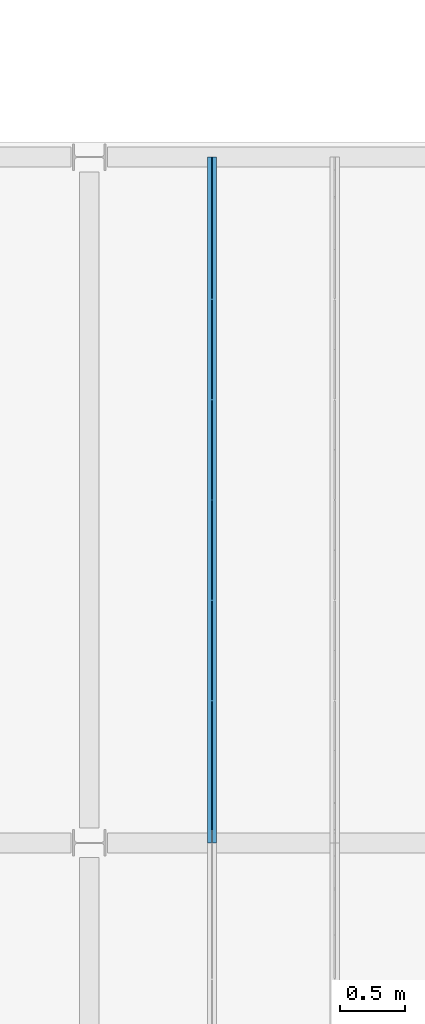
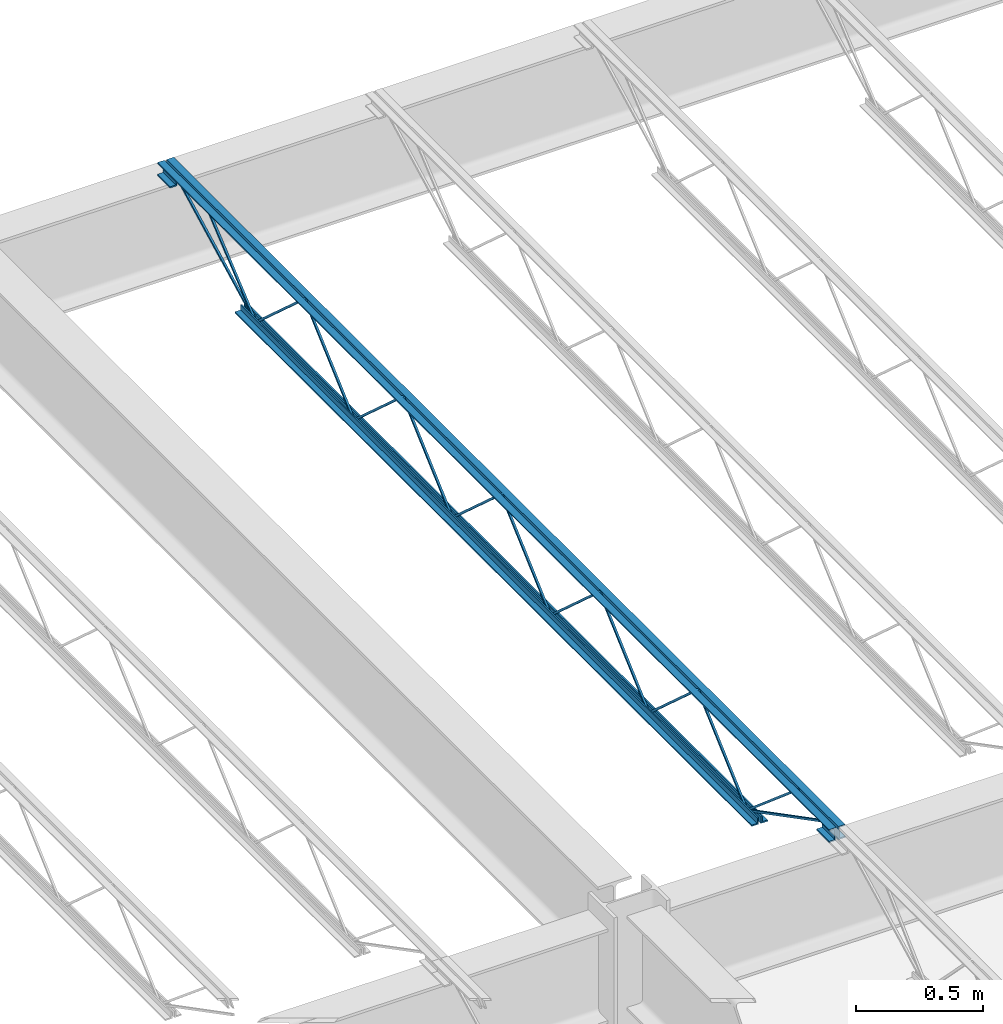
# One storey, part 106 of 119: 1 beam.
"""IFC2X3 building model written with IfcOpenShell, lengths in metres."""

from ifc_helpers import new_model, entity, si_unit, converted_unit, frame, origin, place, context, project, spatial, face_set, surface_model, element, save


model = new_model("IFC2X3")

# Units and contexts
model_context = context("Model", 3, precision=1e-09, world=origin())
plan_context = context("Plan", 3, precision=1e-09, world=origin())
ifc_project = project(units=[si_unit("LENGTHUNIT", "METRE"), si_unit("AREAUNIT", "SQUARE_METRE"), si_unit("VOLUMEUNIT", "CUBIC_METRE"), converted_unit("PLANEANGLEUNIT", "DEGREE", entity("IfcRatioMeasure", 0.01745329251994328), si_unit("PLANEANGLEUNIT", "RADIAN"), dimensions=[0, 0, 0, 0, 0, 0, 0]), si_unit("TIMEUNIT", "SECOND")], contexts=[model_context, plan_context])

# Site, building, storey
site_placement = place(None, origin())
site = spatial("IfcSite", under=ifc_project, at=site_placement, Name="Default", CompositionType="ELEMENT")
building_placement = place(site_placement, origin())
building = spatial("IfcBuilding", under=site, at=building_placement, CompositionType="ELEMENT")
storey_placement = place(building_placement, frame((0.0, 0.0, 4.570000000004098)))
storey = spatial("IfcBuildingStorey", under=building, at=storey_placement, Name="Second Floor", CompositionType="ELEMENT", Elevation=4.570000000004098)

# Beam
beam_placement = place(storey_placement, frame((-13.96672812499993, 44.78049999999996, 4.323999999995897), z_axis=(0.0, 0.0, 1.0), x_axis=(-1.0, 0.0, 0.0)))
element("IfcBeam", 1, at=beam_placement, inside=storey, Name="M_K-Series Bar Joist-Rod Web:14K1:14K1", ObjectType="M_K-Series Bar Joist-Rod Web:14K1", context=model_context, shape_type="SurfaceModel", body=[
    surface_model("IfcFaceBasedSurfaceModel", [(-0.0320000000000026, -2.266000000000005, 0.01110000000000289), (-0.04150000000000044, -2.266000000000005, 0.01110000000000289), (-0.04150000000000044, -2.266000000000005, 0.001600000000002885), (-0.0320000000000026, -2.266000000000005, 0.001600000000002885), (-0.04150000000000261, -2.264645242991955, 0.01110000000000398), (-0.0320000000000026, -2.264645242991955, 0.01110000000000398), (-0.04150000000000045, -2.261004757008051, 0.001600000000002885), (-0.04149999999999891, -1.878854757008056, 0.3449000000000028), (-0.04149999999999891, -1.876145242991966, 0.3449000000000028), (-0.04149999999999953, -1.493995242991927, 0.001600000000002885), (-0.04149999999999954, -1.489000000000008, 0.001600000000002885), (-0.04149999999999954, -1.489000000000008, 0.01110000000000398), (-0.04149999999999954, -1.490354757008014, 0.01110000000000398), (-0.04150000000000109, -1.872504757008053, 0.3544000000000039), (-0.04150000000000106, -1.88249524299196, 0.3544000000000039), (-0.03200000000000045, -2.261004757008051, 0.001600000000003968), (-0.03200000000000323, -1.878854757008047, 0.3449000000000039), (-0.03200000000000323, -1.876145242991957, 0.3449000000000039), (-0.0320000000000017, -1.493995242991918, 0.001600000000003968), (-0.03200000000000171, -1.489000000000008, 0.001600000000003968), (-0.03200000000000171, -1.489000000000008, 0.01110000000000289), (-0.0320000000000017, -1.490354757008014, 0.01110000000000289), (-0.03200000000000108, -1.872504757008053, 0.3544000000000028), (-0.03200000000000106, -1.88249524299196, 0.3544000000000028), (-0.03200000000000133, -3.043000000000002, 0.01110000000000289), (-0.04149999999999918, -3.043000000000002, 0.01110000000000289), (-0.04149999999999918, -3.043000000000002, 0.001600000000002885), (-0.03200000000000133, -3.043000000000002, 0.001600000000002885), (-0.04150000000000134, -3.041645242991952, 0.01110000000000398), (-0.03200000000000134, -3.041645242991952, 0.01110000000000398), (-0.04149999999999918, -3.038004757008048, 0.001600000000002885), (-0.0414999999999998, -2.655854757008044, 0.3449000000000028), (-0.04149999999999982, -2.653145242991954, 0.3449000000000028), (-0.04150000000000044, -2.270995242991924, 0.001600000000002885), (-0.04149999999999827, -2.266000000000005, 0.01110000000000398), (-0.04149999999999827, -2.267354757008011, 0.01110000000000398), (-0.04149999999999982, -2.649504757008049, 0.3544000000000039), (-0.0414999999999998, -2.659495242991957, 0.3544000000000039), (-0.03199999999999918, -3.038004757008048, 0.001600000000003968), (-0.03200000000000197, -2.655854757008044, 0.3449000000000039), (-0.03200000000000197, -2.653145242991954, 0.3449000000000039), (-0.03200000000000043, -2.270995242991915, 0.001600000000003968), (-0.03200000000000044, -2.266000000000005, 0.001600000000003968), (-0.0320000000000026, -2.267354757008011, 0.01110000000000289), (-0.03200000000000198, -2.649504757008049, 0.3544000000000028), (-0.03200000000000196, -2.659495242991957, 0.3544000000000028), (-0.03200000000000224, -3.819999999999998, 0.01110000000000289), (-0.04150000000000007, -3.819999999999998, 0.01110000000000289), (-0.04150000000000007, -3.819999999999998, 0.001600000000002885), (-0.03200000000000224, -3.819999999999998, 0.001600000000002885), (-0.04150000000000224, -3.818645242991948, 0.01110000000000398), (-0.03200000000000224, -3.818645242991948, 0.01110000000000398), (-0.04150000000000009, -3.815004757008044, 0.001600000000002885), (-0.0415000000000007, -3.432854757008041, 0.3449000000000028), (-0.04150000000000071, -3.43014524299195, 0.3449000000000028), (-0.04149999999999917, -3.047995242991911, 0.001600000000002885), (-0.04149999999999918, -3.042999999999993, 0.001600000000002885), (-0.04149999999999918, -3.043000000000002, 0.01110000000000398), (-0.04149999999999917, -3.044354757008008, 0.01110000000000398), (-0.04150000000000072, -3.426504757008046, 0.3544000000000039), (-0.0415000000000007, -3.436495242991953, 0.3544000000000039), (-0.03200000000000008, -3.815004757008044, 0.001600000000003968), (-0.03200000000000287, -3.432854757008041, 0.3449000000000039), (-0.03200000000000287, -3.43014524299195, 0.3449000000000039), (-0.03200000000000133, -3.047995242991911, 0.001600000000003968), (-0.03200000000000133, -3.043000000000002, 0.001600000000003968), (-0.03200000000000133, -3.042999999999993, 0.01110000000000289), (-0.03200000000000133, -3.044354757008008, 0.01110000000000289), (-0.03200000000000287, -3.426504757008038, 0.3544000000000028), (-0.03200000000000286, -3.436495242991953, 0.3544000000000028), (-0.03200000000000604, -1.489000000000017, 0.01109999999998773), (-0.04150000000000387, -1.489000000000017, 0.01109999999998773), (-0.04150000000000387, -1.489000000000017, 0.001599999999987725), (-0.03200000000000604, -1.489000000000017, 0.001599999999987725), (-0.04150000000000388, -1.487645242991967, 0.01109999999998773), (-0.03200000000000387, -1.487645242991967, 0.01109999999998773), (-0.04150000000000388, -1.484004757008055, 0.001599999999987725), (-0.04150000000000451, -1.101854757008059, 0.3448999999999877), (-0.04150000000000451, -1.099145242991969, 0.3448999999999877), (-0.04150000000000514, -0.7169952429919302, 0.001599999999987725), (-0.04150000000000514, -0.7120000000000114, 0.001599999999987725), (-0.04150000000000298, -0.7120000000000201, 0.01109999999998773), (-0.04150000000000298, -0.7133547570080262, 0.01109999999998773), (-0.04150000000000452, -1.095504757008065, 0.3543999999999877), (-0.0415000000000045, -1.105495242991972, 0.3543999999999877), (-0.03200000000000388, -1.484004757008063, 0.001599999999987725), (-0.0320000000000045, -1.101854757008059, 0.3448999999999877), (-0.0320000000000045, -1.099145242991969, 0.3448999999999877), (-0.03200000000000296, -0.7169952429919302, 0.001599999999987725), (-0.03200000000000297, -0.7120000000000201, 0.001599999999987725), (-0.0320000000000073, -0.7120000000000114, 0.01109999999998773), (-0.03200000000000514, -0.7133547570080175, 0.01109999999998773), (-0.03200000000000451, -1.095504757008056, 0.3543999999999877), (-0.0320000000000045, -1.105495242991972, 0.3543999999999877), (-0.03200000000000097, -4.596999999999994, 0.01110000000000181), (-0.04149999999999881, -4.596999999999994, 0.01110000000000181), (-0.04149999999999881, -4.596999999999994, 0.001600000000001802), (-0.03200000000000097, -4.596999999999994, 0.001600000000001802), (-0.04150000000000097, -4.595645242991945, 0.01110000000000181), (-0.03200000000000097, -4.595645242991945, 0.01110000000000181), (-0.04149999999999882, -4.592004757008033, 0.001600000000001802), (-0.04149999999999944, -4.209854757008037, 0.3449000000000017), (-0.04149999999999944, -4.207145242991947, 0.3449000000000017), (-0.04150000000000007, -3.824995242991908, 0.001600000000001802), (-0.04150000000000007, -3.819999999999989, 0.001600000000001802), (-0.04149999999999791, -3.819999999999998, 0.01110000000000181), (-0.04149999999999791, -3.821354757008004, 0.01110000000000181), (-0.04149999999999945, -4.203504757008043, 0.3544000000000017), (-0.04149999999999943, -4.21349524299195, 0.3544000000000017), (-0.03199999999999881, -4.592004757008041, 0.001600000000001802), (-0.0320000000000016, -4.209854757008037, 0.3449000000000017), (-0.0320000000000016, -4.207145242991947, 0.3449000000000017), (-0.03200000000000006, -3.824995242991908, 0.001600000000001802), (-0.03200000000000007, -3.819999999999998, 0.001600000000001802), (-0.03200000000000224, -3.819999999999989, 0.01110000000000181), (-0.03200000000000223, -3.821354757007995, 0.01110000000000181), (-0.03200000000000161, -4.203504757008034, 0.3544000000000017), (-0.03200000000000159, -4.213495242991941, 0.3544000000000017), (-0.04150000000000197, 0.0, 0.3559999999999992), (-0.07350000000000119, 0.0, 0.3559999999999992), (-0.07350000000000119, 0.0, 0.3494999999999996), (-0.04800000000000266, 0.0, 0.3494999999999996), (-0.04800000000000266, 0.0, 0.3239999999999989), (-0.04150000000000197, 0.0, 0.3239999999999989), (-0.03200000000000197, 0.0, 0.3559999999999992), (-0.03200000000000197, 0.0, 0.3239999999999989), (-0.02550000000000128, 0.0, 0.3239999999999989), (-0.02550000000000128, 0.0, 0.3494999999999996), (0.0, 0.0, 0.3494999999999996), (0.0, 0.0, 0.3559999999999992), (-0.04150000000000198, -5.308999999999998, 0.3559999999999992), (-0.0735000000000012, -5.308999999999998, 0.3559999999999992), (-0.0735000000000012, -5.308999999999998, 0.3494999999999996), (-0.04800000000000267, -5.308999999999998, 0.3494999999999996), (-0.04800000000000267, -5.308999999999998, 0.3239999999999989), (-0.04150000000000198, -5.308999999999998, 0.3239999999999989), (-0.03200000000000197, -5.308999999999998, 0.3559999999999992), (-0.03200000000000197, -5.308999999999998, 0.3239999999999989), (-0.02550000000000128, -5.308999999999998, 0.3239999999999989), (-0.02550000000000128, -5.308999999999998, 0.3494999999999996), (0.0, -5.308999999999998, 0.3494999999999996), (0.0, -5.308999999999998, 0.3559999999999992), (-0.03200000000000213, -5.209000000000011, 0.2924999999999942), (0.0, -5.209000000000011, 0.2924999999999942), (0.0, -5.209000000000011, 0.2989999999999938), (-0.02550000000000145, -5.209000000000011, 0.2989999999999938), (-0.02550000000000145, -5.209000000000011, 0.3239999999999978), (-0.03200000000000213, -5.209000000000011, 0.3239999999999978), (-0.07350000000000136, -5.209000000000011, 0.2924999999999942), (-0.04150000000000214, -5.209000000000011, 0.2924999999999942), (-0.04150000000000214, -5.209000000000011, 0.3239999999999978), (-0.04800000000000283, -5.209000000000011, 0.3239999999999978), (-0.04800000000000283, -5.209000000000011, 0.2989999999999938), (-0.07350000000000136, -5.209000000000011, 0.2989999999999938), (-0.03200000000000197, -5.308999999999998, 0.2924999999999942), (0.0, -5.308999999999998, 0.2924999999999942), (0.0, -5.308999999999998, 0.2989999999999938), (-0.02550000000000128, -5.308999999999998, 0.2989999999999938), (-0.02550000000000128, -5.308999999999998, 0.3239999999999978), (-0.03200000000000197, -5.308999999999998, 0.3239999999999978), (-0.0735000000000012, -5.308999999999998, 0.2924999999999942), (-0.04150000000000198, -5.308999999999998, 0.2924999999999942), (-0.04150000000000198, -5.308999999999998, 0.3239999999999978), (-0.04800000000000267, -5.308999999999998, 0.3239999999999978), (-0.04800000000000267, -5.308999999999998, 0.2989999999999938), (-0.0735000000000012, -5.308999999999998, 0.2989999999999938), (-0.04150000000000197, 0.0, 0.2924999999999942), (-0.04150000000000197, 0.0, 0.3239999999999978), (-0.04800000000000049, 0.0, 0.3239999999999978), (-0.04800000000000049, 0.0, 0.2989999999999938), (-0.07350000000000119, 0.0, 0.2989999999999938), (-0.07350000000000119, 0.0, 0.2924999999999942), (-0.03200000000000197, 0.0, 0.2924999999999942), (0.0, 0.0, 0.2924999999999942), (0.0, 0.0, 0.2989999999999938), (-0.02550000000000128, 0.0, 0.2989999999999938), (-0.02550000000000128, 0.0, 0.3239999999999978), (-0.03200000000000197, 0.0, 0.3239999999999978), (-0.04150000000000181, -0.0999999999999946, 0.2924999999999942), (-0.04150000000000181, -0.0999999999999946, 0.3239999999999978), (-0.04800000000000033, -0.0999999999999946, 0.3239999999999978), (-0.04800000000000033, -0.0999999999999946, 0.2989999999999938), (-0.07350000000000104, -0.0999999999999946, 0.2989999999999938), (-0.07350000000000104, -0.0999999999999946, 0.2924999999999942), (-0.03200000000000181, -0.0999999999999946, 0.2924999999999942), (0.0, -0.0999999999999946, 0.2924999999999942), (0.0, -0.0999999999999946, 0.2989999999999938), (-0.02550000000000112, -0.0999999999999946, 0.2989999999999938), (-0.02550000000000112, -0.0999999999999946, 0.3239999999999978), (-0.03200000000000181, -0.0999999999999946, 0.3239999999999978), (-0.04150000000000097, -0.6119999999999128, 0.0), (-0.04150000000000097, -0.6119999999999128, 0.03199999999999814), (-0.04800000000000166, -0.6119999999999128, 0.03199999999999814), (-0.04800000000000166, -0.6119999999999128, 0.006499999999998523), (-0.07350000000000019, -0.6119999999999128, 0.006499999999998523), (-0.07350000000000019, -0.6119999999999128, 0.0), (-0.03200000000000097, -0.6119999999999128, 0.0), (0.0, -0.6119999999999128, 0.0), (0.0, -0.6119999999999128, 0.006499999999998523), (-0.02550000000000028, -0.6119999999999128, 0.006499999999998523), (-0.02550000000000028, -0.6119999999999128, 0.03199999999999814), (-0.03200000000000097, -0.6119999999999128, 0.03199999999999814), (-0.04150000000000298, -4.696999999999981, 0.0), (-0.04150000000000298, -4.696999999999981, 0.03199999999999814), (-0.04800000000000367, -4.696999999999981, 0.03199999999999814), (-0.04800000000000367, -4.696999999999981, 0.006499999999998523), (-0.0735000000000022, -4.696999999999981, 0.006499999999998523), (-0.0735000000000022, -4.696999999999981, 0.0), (-0.03200000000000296, -4.696999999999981, 0.0), (0.0, -4.696999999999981, 0.0), (0.0, -4.696999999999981, 0.006499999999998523), (-0.02550000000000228, -4.696999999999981, 0.006499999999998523), (-0.02550000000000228, -4.696999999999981, 0.03199999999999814), (-0.03200000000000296, -4.696999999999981, 0.03199999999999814), (-0.03199999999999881, -4.594811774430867, 0.01056594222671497), (-0.04149999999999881, -4.594811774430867, 0.01056594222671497), (-0.04149999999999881, -4.599188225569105, 0.00213405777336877), (-0.03200000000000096, -4.599188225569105, 0.00213405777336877), (-0.0319999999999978, -5.207840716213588, 0.3287499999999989), (-0.0319999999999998, -5.308999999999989, 0.3287499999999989), (-0.03200000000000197, -5.308999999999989, 0.3192499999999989), (-0.03200000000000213, -5.210159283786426, 0.3192499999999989), (-0.04149999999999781, -5.210159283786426, 0.3192499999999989), (-0.04149999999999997, -5.207840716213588, 0.3287499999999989), (-0.04149999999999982, -5.308999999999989, 0.3287499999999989), (-0.04149999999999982, -5.308999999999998, 0.3192499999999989), (-0.03200000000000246, -5.005457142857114, 0.3417000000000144), (-0.0415000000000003, -5.005457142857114, 0.3417000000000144), (-0.0415000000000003, -5.005457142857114, 0.3322000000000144), (-0.03200000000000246, -5.005457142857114, 0.3322000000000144), (-0.04150000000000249, -4.991034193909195, 0.3417000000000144), (-0.03200000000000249, -4.991034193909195, 0.3417000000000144), (-0.04150000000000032, -4.99448009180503, 0.3322000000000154), (-0.0414999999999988, -4.600045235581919, 0.002704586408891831), (-0.04150000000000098, -4.593954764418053, 0.009995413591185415), (-0.03200000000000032, -4.99448009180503, 0.3322000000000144), (-0.03200000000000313, -4.600045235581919, 0.002704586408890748), (-0.03199999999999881, -4.593954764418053, 0.009995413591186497), (-0.03199999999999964, -0.09781177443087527, 0.3197840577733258), (-0.03200000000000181, -0.1021882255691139, 0.328215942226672), (-0.04150000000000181, -0.1021882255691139, 0.328215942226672), (-0.04149999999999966, -0.09781177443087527, 0.3197840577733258), (-0.03200000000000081, -0.7098117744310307, 0.002134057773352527), (-0.03200000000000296, -0.7141882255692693, 0.01056594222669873), (-0.04150000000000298, -0.7141882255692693, 0.01056594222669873), (-0.04150000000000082, -0.7098117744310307, 0.002134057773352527), (-0.0319999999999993, -0.3059055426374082, 0.3460340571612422), (-0.03200000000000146, -0.3120658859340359, 0.35326594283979), (-0.04150000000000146, -0.3120658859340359, 0.3532659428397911), (-0.04149999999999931, -0.3059055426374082, 0.3460340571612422), (-0.03200000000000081, -0.7089198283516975, 0.002734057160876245), (-0.03200000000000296, -0.7150801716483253, 0.00996594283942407), (-0.04150000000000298, -0.7150801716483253, 0.00996594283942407), (-0.04150000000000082, -0.7089198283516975, 0.002734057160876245)], [face_set([[[0, 1, 2, 3]], [[1, 4, 5, 0]], [[2, 6, 7, 8, 9, 10, 11, 12, 13, 14, 4, 1]], [[3, 2, 6, 15]], [[0, 3, 15, 16, 17, 18, 19, 20, 21, 22, 23, 5]], [[4, 5, 23, 14]], [[15, 16, 7, 6]], [[14, 13, 22, 23]], [[16, 7, 8, 17]], [[13, 12, 21, 22]], [[17, 8, 9, 18]], [[20, 11, 10, 19]], [[12, 11, 20, 21]], [[18, 9, 10, 19]]]), face_set([[[24, 25, 26, 27]], [[25, 28, 29, 24]], [[26, 30, 31, 32, 33, 2, 34, 35, 36, 37, 28, 25]], [[27, 26, 30, 38]], [[24, 27, 38, 39, 40, 41, 42, 0, 43, 44, 45, 29]], [[28, 29, 45, 37]], [[38, 39, 31, 30]], [[37, 36, 44, 45]], [[39, 31, 32, 40]], [[36, 35, 43, 44]], [[40, 32, 33, 41]], [[0, 34, 2, 42]], [[35, 34, 0, 43]], [[41, 33, 2, 42]]]), face_set([[[46, 47, 48, 49]], [[47, 50, 51, 46]], [[48, 52, 53, 54, 55, 56, 57, 58, 59, 60, 50, 47]], [[49, 48, 52, 61]], [[46, 49, 61, 62, 63, 64, 65, 66, 67, 68, 69, 51]], [[50, 51, 69, 60]], [[61, 62, 53, 52]], [[60, 59, 68, 69]], [[62, 53, 54, 63]], [[59, 58, 67, 68]], [[63, 54, 55, 64]], [[66, 57, 56, 65]], [[58, 57, 66, 67]], [[64, 55, 56, 65]]]), face_set([[[70, 71, 72, 73]], [[71, 74, 75, 70]], [[72, 76, 77, 78, 79, 80, 81, 82, 83, 84, 74, 71]], [[73, 72, 76, 85]], [[70, 73, 85, 86, 87, 88, 89, 90, 91, 92, 93, 75]], [[74, 75, 93, 84]], [[85, 86, 77, 76]], [[84, 83, 92, 93]], [[86, 77, 78, 87]], [[83, 82, 91, 92]], [[87, 78, 79, 88]], [[90, 81, 80, 89]], [[82, 81, 90, 91]], [[88, 79, 80, 89]]]), face_set([[[94, 95, 96, 97]], [[95, 98, 99, 94]], [[96, 100, 101, 102, 103, 104, 105, 106, 107, 108, 98, 95]], [[97, 96, 100, 109]], [[94, 97, 109, 110, 111, 112, 113, 114, 115, 116, 117, 99]], [[98, 99, 117, 108]], [[109, 110, 101, 100]], [[108, 107, 116, 117]], [[110, 101, 102, 111]], [[107, 106, 115, 116]], [[111, 102, 103, 112]], [[114, 105, 104, 113]], [[106, 105, 114, 115]], [[112, 103, 104, 113]]]), face_set([[[118, 119, 120, 121, 122, 123]], [[124, 125, 126, 127, 128, 129]], [[130, 131, 132, 133, 134, 135]], [[136, 137, 138, 139, 140, 141]], [[123, 118, 130, 135]], [[122, 123, 135, 134]], [[121, 133, 134, 122]], [[120, 121, 133, 132]], [[119, 131, 132, 120]], [[118, 130, 131, 119]], [[129, 141, 136, 124]], [[128, 129, 141, 140]], [[127, 128, 140, 139]], [[126, 127, 139, 138]], [[125, 126, 138, 137]], [[124, 136, 137, 125]]]), face_set([[[142, 143, 144, 145, 146, 147]], [[148, 149, 150, 151, 152, 153]], [[154, 155, 156, 157, 158, 159]], [[160, 161, 162, 163, 164, 165]], [[147, 159, 154, 142]], [[146, 158, 159, 147]], [[145, 146, 158, 157]], [[144, 156, 157, 145]], [[143, 144, 156, 155]], [[142, 143, 155, 154]], [[153, 165, 160, 148]], [[152, 164, 165, 153]], [[151, 163, 164, 152]], [[150, 162, 163, 151]], [[149, 150, 162, 161]], [[148, 149, 161, 160]]]), face_set([[[166, 167, 168, 169, 170, 171]], [[172, 173, 174, 175, 176, 177]], [[178, 179, 180, 181, 182, 183]], [[184, 185, 186, 187, 188, 189]], [[171, 166, 178, 183]], [[170, 182, 183, 171]], [[169, 181, 182, 170]], [[168, 180, 181, 169]], [[167, 179, 180, 168]], [[166, 167, 179, 178]], [[177, 189, 184, 172]], [[176, 188, 189, 177]], [[175, 176, 188, 187]], [[174, 186, 187, 175]], [[173, 174, 186, 185]], [[172, 173, 185, 184]]]), face_set([[[190, 191, 192, 193, 194, 195]], [[196, 197, 198, 199, 200, 201]], [[202, 203, 204, 205, 206, 207]], [[208, 209, 210, 211, 212, 213]], [[195, 190, 202, 207]], [[194, 206, 207, 195]], [[193, 205, 206, 194]], [[192, 204, 205, 193]], [[191, 203, 204, 192]], [[190, 191, 203, 202]], [[201, 213, 208, 196]], [[200, 212, 213, 201]], [[199, 200, 212, 211]], [[198, 210, 211, 199]], [[197, 198, 210, 209]], [[196, 197, 209, 208]]]), face_set([[[214, 215, 216, 217]], [[217, 214, 218, 219, 220, 221]], [[216, 217, 221, 222]], [[215, 223, 224, 225, 222, 216]], [[214, 218, 223, 215]], [[219, 224, 225, 220]], [[222, 221, 220, 225]], [[218, 219, 224, 223]]]), face_set([[[226, 227, 228, 229]], [[227, 230, 231, 226]], [[228, 232, 233, 234, 230, 227]], [[229, 228, 232, 235]], [[226, 229, 235, 236, 237, 231]], [[237, 234, 233, 236]], [[230, 234, 237, 231]], [[235, 232, 233, 236]]]), face_set([[[238, 239, 240, 241]], [[242, 243, 244, 245]], [[241, 245, 242, 238]], [[240, 244, 245, 241]], [[239, 240, 244, 243]], [[238, 239, 243, 242]]]), face_set([[[246, 247, 248, 249]], [[250, 251, 252, 253]], [[249, 253, 250, 246]], [[248, 252, 253, 249]], [[247, 248, 252, 251]], [[246, 247, 251, 250]]])]),
])

save(model, "model.ifc")
